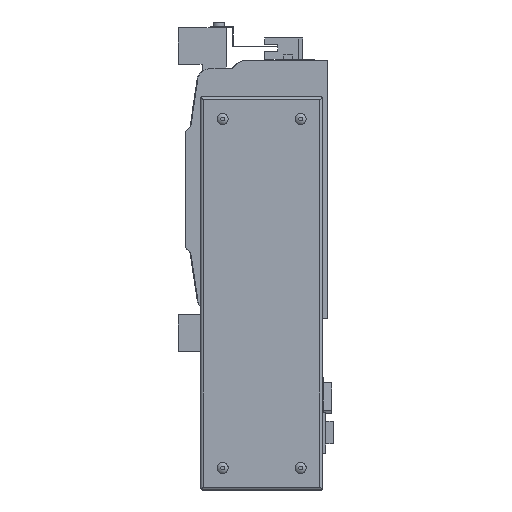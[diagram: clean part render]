
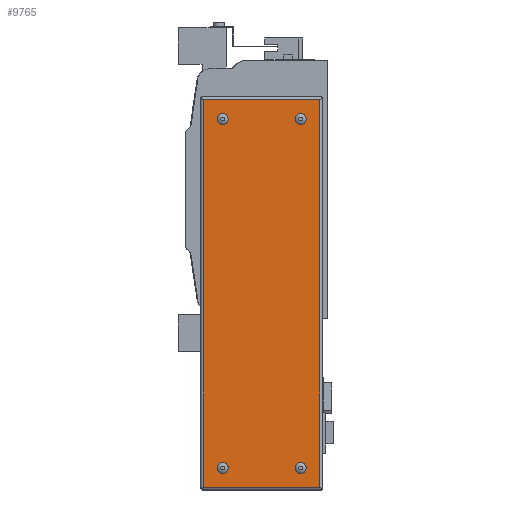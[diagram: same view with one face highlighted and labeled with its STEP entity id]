
A CAD part, left-side view. The second image highlights one B-rep face of the part: STEP entity #9765.
In plain terms, the highlighted planar face has unit normal (-1, 0, 0).
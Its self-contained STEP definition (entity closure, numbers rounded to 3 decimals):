
#281=PLANE('',#10512);
#993=LINE('',#15023,#2083);
#994=LINE('',#15026,#2084);
#995=LINE('',#15028,#2085);
#996=LINE('',#15030,#2086);
#2083=VECTOR('',#12178,1000.);
#2084=VECTOR('',#12179,1000.);
#2085=VECTOR('',#12180,1000.);
#2086=VECTOR('',#12181,1000.);
#3844=ORIENTED_EDGE('',*,*,#6023,.F.);
#3845=ORIENTED_EDGE('',*,*,#6024,.F.);
#3846=ORIENTED_EDGE('',*,*,#6025,.F.);
#3847=ORIENTED_EDGE('',*,*,#6026,.F.);
#3848=ORIENTED_EDGE('',*,*,#6027,.F.);
#3849=ORIENTED_EDGE('',*,*,#6028,.F.);
#3850=ORIENTED_EDGE('',*,*,#6029,.T.);
#3851=ORIENTED_EDGE('',*,*,#6030,.T.);
#6023=EDGE_CURVE('',#7219,#7219,#7861,.F.);
#6024=EDGE_CURVE('',#7220,#7220,#7862,.F.);
#6025=EDGE_CURVE('',#7221,#7221,#7863,.F.);
#6026=EDGE_CURVE('',#7222,#7222,#7864,.F.);
#6027=EDGE_CURVE('',#7223,#7224,#993,.T.);
#6028=EDGE_CURVE('',#7225,#7223,#994,.T.);
#6029=EDGE_CURVE('',#7225,#7226,#995,.T.);
#6030=EDGE_CURVE('',#7226,#7224,#996,.T.);
#7219=VERTEX_POINT('',#15016);
#7220=VERTEX_POINT('',#15018);
#7221=VERTEX_POINT('',#15020);
#7222=VERTEX_POINT('',#15022);
#7223=VERTEX_POINT('',#15024);
#7224=VERTEX_POINT('',#15025);
#7225=VERTEX_POINT('',#15027);
#7226=VERTEX_POINT('',#15029);
#7861=CIRCLE('',#10513,3.7);
#7862=CIRCLE('',#10514,3.7);
#7863=CIRCLE('',#10515,3.7);
#7864=CIRCLE('',#10516,3.7);
#8297=EDGE_LOOP('',(#3844));
#8298=EDGE_LOOP('',(#3845));
#8299=EDGE_LOOP('',(#3846));
#8300=EDGE_LOOP('',(#3847));
#8301=EDGE_LOOP('',(#3848,#3849,#3850,#3851));
#9002=FACE_BOUND('',#8297,.T.);
#9003=FACE_BOUND('',#8298,.T.);
#9004=FACE_BOUND('',#8299,.T.);
#9005=FACE_BOUND('',#8300,.T.);
#9006=FACE_BOUND('',#8301,.T.);
#9765=ADVANCED_FACE('',(#9002,#9003,#9004,#9005,#9006),#281,.F.);
#10512=AXIS2_PLACEMENT_3D('',#15014,#12168,#12169);
#10513=AXIS2_PLACEMENT_3D('',#15015,#12170,#12171);
#10514=AXIS2_PLACEMENT_3D('',#15017,#12172,#12173);
#10515=AXIS2_PLACEMENT_3D('',#15019,#12174,#12175);
#10516=AXIS2_PLACEMENT_3D('',#15021,#12176,#12177);
#12168=DIRECTION('',(1.,0.,0.));
#12169=DIRECTION('',(0.,0.,-1.));
#12170=DIRECTION('',(1.,0.,0.));
#12171=DIRECTION('',(0.,0.,-1.));
#12172=DIRECTION('',(1.,0.,0.));
#12173=DIRECTION('',(0.,0.,-1.));
#12174=DIRECTION('',(1.,0.,0.));
#12175=DIRECTION('',(0.,0.,-1.));
#12176=DIRECTION('',(1.,0.,0.));
#12177=DIRECTION('',(0.,0.,-1.));
#12178=DIRECTION('',(0.,0.,-1.));
#12179=DIRECTION('',(0.,-1.,0.));
#12180=DIRECTION('',(0.,0.,-1.));
#12181=DIRECTION('',(0.,-1.,0.));
#15014=CARTESIAN_POINT('',(-66.,0.,0.));
#15015=CARTESIAN_POINT('',(-66.,71.5,-189.));
#15016=CARTESIAN_POINT('',(-66.,71.5,-192.7));
#15017=CARTESIAN_POINT('',(-66.,18.5,48.));
#15018=CARTESIAN_POINT('',(-66.,18.5,44.3));
#15019=CARTESIAN_POINT('',(-66.,18.5,-189.));
#15020=CARTESIAN_POINT('',(-66.,18.5,-192.7));
#15021=CARTESIAN_POINT('',(-66.,71.5,48.));
#15022=CARTESIAN_POINT('',(-66.,71.5,44.3));
#15023=CARTESIAN_POINT('',(-66.,5.5,267.));
#15024=CARTESIAN_POINT('',(-66.,5.5,61.));
#15025=CARTESIAN_POINT('',(-66.,5.5,-202.));
#15026=CARTESIAN_POINT('',(-66.,267.,61.));
#15027=CARTESIAN_POINT('',(-66.,84.5,61.));
#15028=CARTESIAN_POINT('',(-66.,84.5,267.));
#15029=CARTESIAN_POINT('',(-66.,84.5,-202.));
#15030=CARTESIAN_POINT('',(-66.,267.,-202.));
